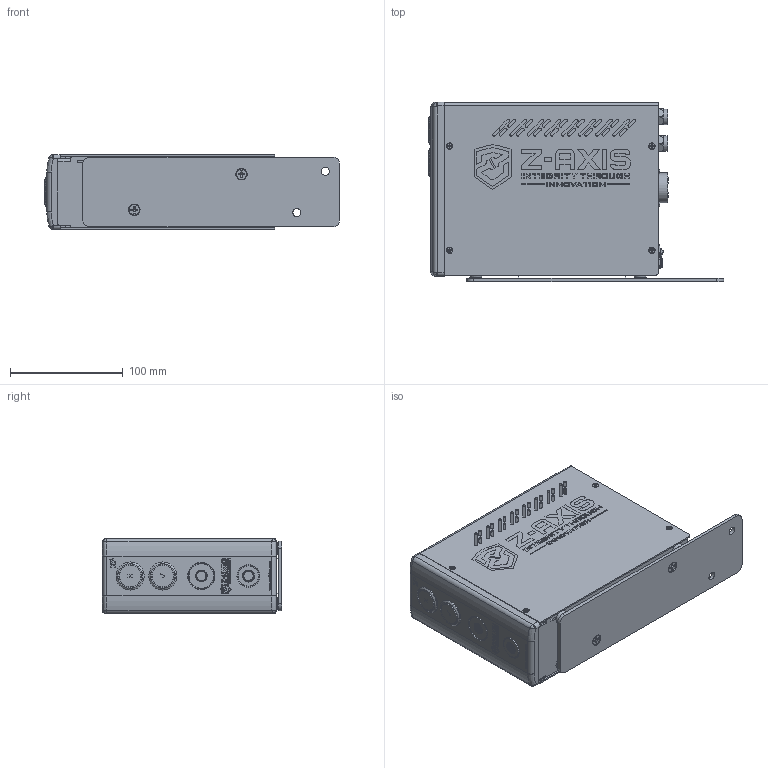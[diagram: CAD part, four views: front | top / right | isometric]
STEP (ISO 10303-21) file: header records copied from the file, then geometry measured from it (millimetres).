
FILE_DESCRIPTION (( 'STEP AP203' ), '1' );
FILE_NAME ('301305-A.STEP', '2025-09-10T20:25:32', ( '' ), ( '' ), 'SwSTEP 2.0', 'SolidWorks 2023', '' );
FILE_SCHEMA (( 'CONFIG_CONTROL_DESIGN' ));
Products named in the file (1): 301305-A
Bounding box: 262.66 x 159.48 x 66.71 mm (x, y, z)
Surface area: 310701.5 mm2 (no closed solid volume)
Topology: 0 solids, 321 shells, 1475 faces, 12117 edges, 10802 vertices
Faces by surface type: plane 956, cylinder 300, cone 104, bspline 70, torus 37, sphere 8
Full cylindrical faces by diameter (mm): 0.432 x1, 0.6 x1, 1.27 x28, 1.587 x3, 3.556 x1, 3.97 x2, 4.191 x1, 5.563 x4, 5.664 x1, 5.715 x1, 7.142 x2, 7.5 x2, 7.798 x1, 9.9 x1, 10.109 x1, 11.4 x1, 13.8 x2, 18.542 x1, 18.923 x1, 19.05 x1, 19.558 x2, 20 x2, 20.472 x1, 21.717 x1, 22.225 x1, 22.479 x1, 24.9 x2, 26.67 x1, 28.575 x1
Entity records: 139826 total; most frequent: CARTESIAN_POINT 59813, ORIENTED_EDGE 14205, DIRECTION 13084, EDGE_CURVE 11872, VERTEX_POINT 10726, LINE 7218, VECTOR 7218, B_SPLINE_CURVE_WITH_KNOTS 3077
